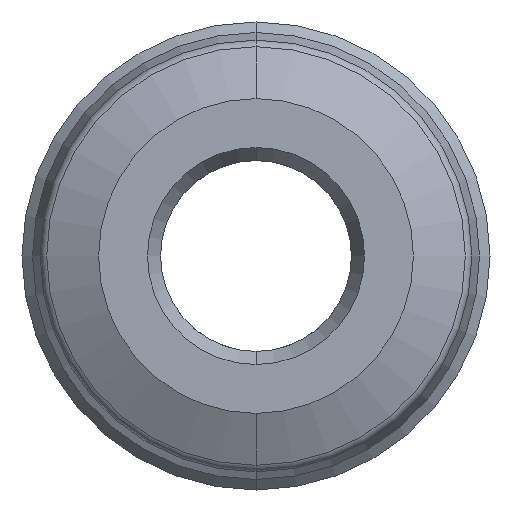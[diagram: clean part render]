
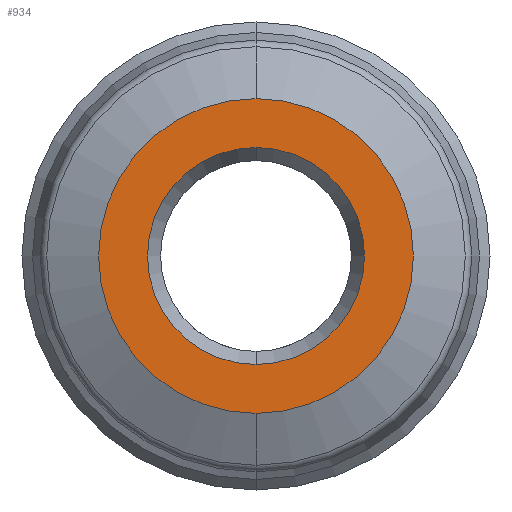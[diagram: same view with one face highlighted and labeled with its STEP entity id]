
A CAD part, front view. The second image highlights one B-rep face of the part: STEP entity #934.
In plain terms, the highlighted planar face has unit normal (0, -1, 0).
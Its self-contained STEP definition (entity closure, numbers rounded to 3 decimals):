
#305 = CIRCLE ( 'NONE', #2662, 3.463 ) ;
#404 = AXIS2_PLACEMENT_3D ( 'NONE', #992, #3235, #1318 ) ;
#454 = CARTESIAN_POINT ( 'NONE',  ( 0., -3.4, 2.389 ) ) ;
#501 = VERTEX_POINT ( 'NONE', #1014 ) ;
#861 = CIRCLE ( 'NONE', #1845, 2.389 ) ;
#934 = ADVANCED_FACE ( 'NONE', ( #3527, #1972 ), #1897, .T. ) ;
#982 = DIRECTION ( 'NONE',  ( 0., 0., 1. ) ) ;
#992 = CARTESIAN_POINT ( 'NONE',  ( 0., -3.4, 0. ) ) ;
#1000 = DIRECTION ( 'NONE',  ( 0., 1., 0. ) ) ;
#1014 = CARTESIAN_POINT ( 'NONE',  ( 0., -3.4, 3.463 ) ) ;
#1099 = EDGE_LOOP ( 'NONE', ( #3479, #3760 ) ) ;
#1218 = DIRECTION ( 'NONE',  ( 0., 0., 1. ) ) ;
#1236 = DIRECTION ( 'NONE',  ( 0., 1., 0. ) ) ;
#1245 = CARTESIAN_POINT ( 'NONE',  ( 0., -3.4, 0. ) ) ;
#1252 = CARTESIAN_POINT ( 'NONE',  ( 0., -3.4, 0. ) ) ;
#1318 = DIRECTION ( 'NONE',  ( 0., 0., 1. ) ) ;
#1683 = CIRCLE ( 'NONE', #404, 2.389 ) ;
#1845 = AXIS2_PLACEMENT_3D ( 'NONE', #3129, #2901, #2875 ) ;
#1897 = PLANE ( 'NONE',  #2139 ) ;
#1972 = FACE_OUTER_BOUND ( 'NONE', #1099, .T. ) ;
#2024 = EDGE_CURVE ( 'NONE', #501, #3359, #3207, .T. ) ;
#2139 = AXIS2_PLACEMENT_3D ( 'NONE', #3084, #3108, #3144 ) ;
#2316 = AXIS2_PLACEMENT_3D ( 'NONE', #1252, #1236, #1218 ) ;
#2355 = CARTESIAN_POINT ( 'NONE',  ( 0., -3.4, -3.463 ) ) ;
#2548 = EDGE_CURVE ( 'NONE', #3359, #501, #305, .T. ) ;
#2662 = AXIS2_PLACEMENT_3D ( 'NONE', #1245, #1000, #982 ) ;
#2783 = EDGE_CURVE ( 'NONE', #4091, #3209, #861, .T. ) ;
#2875 = DIRECTION ( 'NONE',  ( 0., 0., 1. ) ) ;
#2901 = DIRECTION ( 'NONE',  ( 0., 1., 0. ) ) ;
#2992 = CARTESIAN_POINT ( 'NONE',  ( 0., -3.4, -2.389 ) ) ;
#3084 = CARTESIAN_POINT ( 'NONE',  ( 3.463, -3.4, 0. ) ) ;
#3108 = DIRECTION ( 'NONE',  ( 0., -1., 0. ) ) ;
#3129 = CARTESIAN_POINT ( 'NONE',  ( 0., -3.4, 0. ) ) ;
#3144 = DIRECTION ( 'NONE',  ( 0., 0., -1. ) ) ;
#3207 = CIRCLE ( 'NONE', #2316, 3.463 ) ;
#3209 = VERTEX_POINT ( 'NONE', #454 ) ;
#3235 = DIRECTION ( 'NONE',  ( 0., 1., 0. ) ) ;
#3267 = ORIENTED_EDGE ( 'NONE', *, *, #3954, .T. ) ;
#3359 = VERTEX_POINT ( 'NONE', #2355 ) ;
#3362 = ORIENTED_EDGE ( 'NONE', *, *, #2783, .T. ) ;
#3479 = ORIENTED_EDGE ( 'NONE', *, *, #2024, .F. ) ;
#3527 = FACE_BOUND ( 'NONE', #3703, .T. ) ;
#3703 = EDGE_LOOP ( 'NONE', ( #3362, #3267 ) ) ;
#3760 = ORIENTED_EDGE ( 'NONE', *, *, #2548, .F. ) ;
#3954 = EDGE_CURVE ( 'NONE', #3209, #4091, #1683, .T. ) ;
#4091 = VERTEX_POINT ( 'NONE', #2992 ) ;
